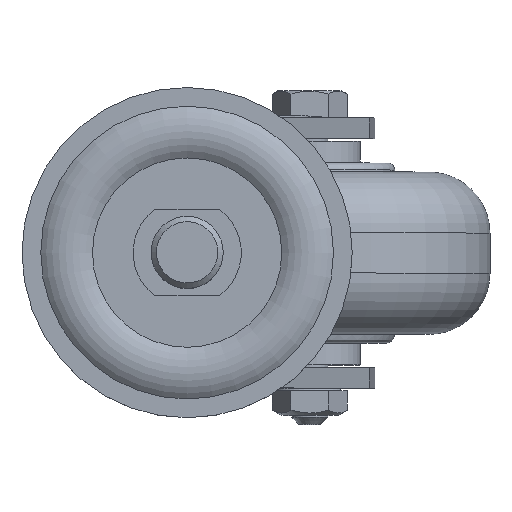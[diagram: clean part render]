
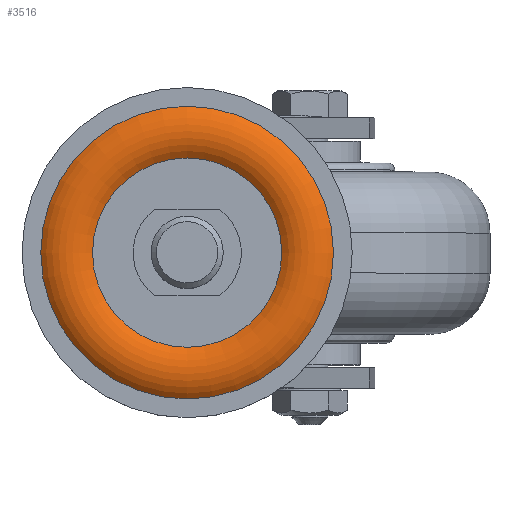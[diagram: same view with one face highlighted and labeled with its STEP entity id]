
A CAD part, top view. The second image highlights one B-rep face of the part: STEP entity #3516.
In plain terms, the highlighted toroidal (fillet/blend) face has major radius 33.25 mm and minor radius 10.934 mm.
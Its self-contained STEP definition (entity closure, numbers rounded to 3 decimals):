
#2125=TOROIDAL_SURFACE('',#14942,33.25,10.934);
#2411=FACE_BOUND('',#5689,.T.);
#2412=FACE_BOUND('',#5690,.T.);
#2610=CIRCLE('',#14934,26.25);
#2613=CIRCLE('',#14940,40.595);
#3516=ADVANCED_FACE('',(#2411,#2412),#2125,.T.);
#5689=EDGE_LOOP('',(#9853));
#5690=EDGE_LOOP('',(#9854));
#9853=ORIENTED_EDGE('',*,*,#13261,.F.);
#9854=ORIENTED_EDGE('',*,*,#13264,.T.);
#11179=VERTEX_POINT('',#40559);
#11182=VERTEX_POINT('',#40568);
#13261=EDGE_CURVE('',#11179,#11179,#2610,.T.);
#13264=EDGE_CURVE('',#11182,#11182,#2613,.T.);
#14934=AXIS2_PLACEMENT_3D('',#40558,#16774,#16775);
#14940=AXIS2_PLACEMENT_3D('',#40567,#16786,#16787);
#14942=AXIS2_PLACEMENT_3D('',#40570,#16790,#16791);
#16774=DIRECTION('',(0.,0.,1.));
#16775=DIRECTION('',(0.,-1.,0.));
#16786=DIRECTION('',(0.,0.,1.));
#16787=DIRECTION('',(0.,-1.,0.));
#16790=DIRECTION('',(0.,0.,1.));
#16791=DIRECTION('',(0.,-1.,0.));
#40558=CARTESIAN_POINT('',(0.,0.,-45.));
#40559=CARTESIAN_POINT('',(0.,-26.25,-45.));
#40567=CARTESIAN_POINT('',(0.,0.,-45.3));
#40568=CARTESIAN_POINT('',(0.,-40.595,-45.3));
#40570=CARTESIAN_POINT('',(0.,0.,-53.4));
